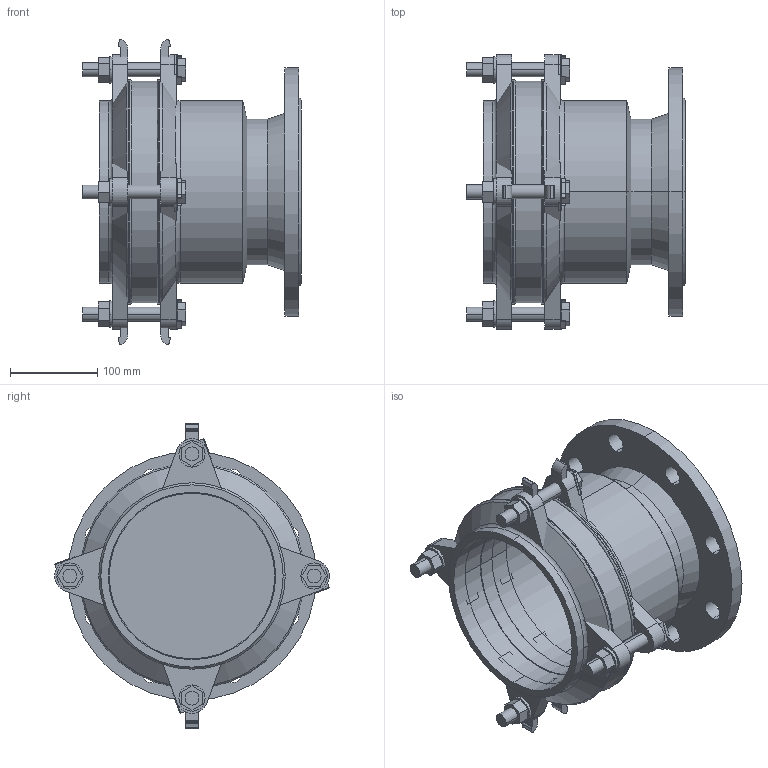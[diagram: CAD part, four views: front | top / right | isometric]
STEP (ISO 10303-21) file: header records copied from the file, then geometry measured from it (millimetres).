
FILE_DESCRIPTION(('STEP AP214'),'1');
FILE_NAME('EM000049 DN 150.STP','2015-01-29T09:22:44',(' '),(' '),'Spatial InterOp 3D',' ',' ');
FILE_SCHEMA(('automotive_design'));
Length unit declared in the file: millimetre
Products named in the file (46): 3D-Objekt
Bounding box: 251 x 315.52 x 350 mm (x, y, z)
Volume: 3268375.2 mm3; surface area: 858293.8 mm2
Topology: 46 solids, 46 shells, 362 faces, 808 edges, 538 vertices
Faces by surface type: plane 232, cylinder 104, cone 14, torus 12
Entity records: 14110 total; most frequent: DIRECTION 1894, CARTESIAN_POINT 1754, ORIENTED_EDGE 1616, EDGE_CURVE 808, AXIS2_PLACEMENT_3D 678, VERTEX_POINT 538, LINE 538, VECTOR 538
